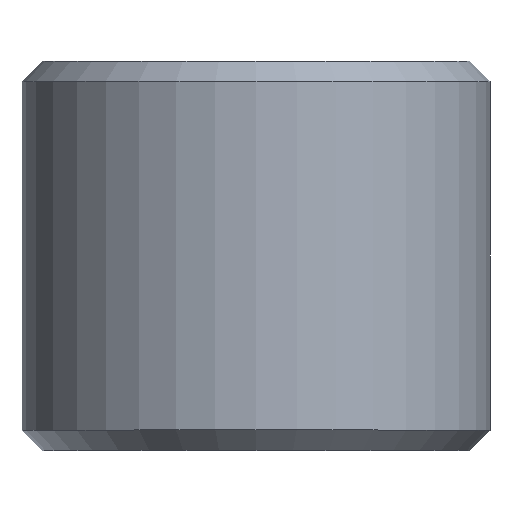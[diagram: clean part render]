
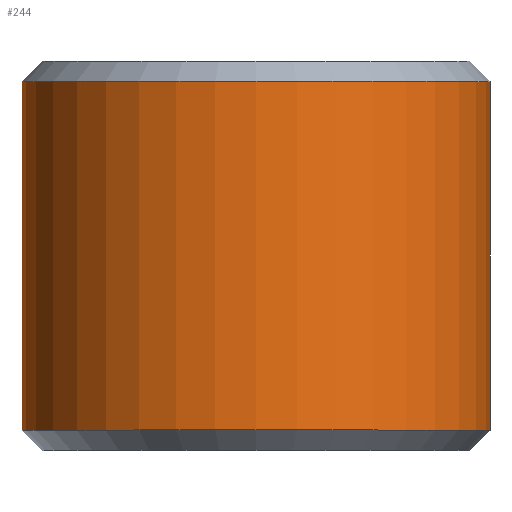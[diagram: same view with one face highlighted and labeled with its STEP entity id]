
A CAD part, top view. The second image highlights one B-rep face of the part: STEP entity #244.
In plain terms, the highlighted cylindrical face has radius 4.811 mm (diameter 9.621 mm), a full revolution.
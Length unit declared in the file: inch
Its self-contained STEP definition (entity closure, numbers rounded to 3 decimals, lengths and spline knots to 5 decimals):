
#16=CYLINDRICAL_SURFACE('',#274,0.18939);
#18=CIRCLE('',#272,0.18939);
#19=CIRCLE('',#273,0.18939);
#20=CIRCLE('',#275,0.18939);
#21=CIRCLE('',#276,0.18939);
#34=FACE_OUTER_BOUND('',#47,.T.);
#47=EDGE_LOOP('',(#193,#194,#195,#196,#197,#198));
#67=LINE('',#425,#83);
#83=VECTOR('',#321,0.203);
#117=VERTEX_POINT('',#418);
#118=VERTEX_POINT('',#420);
#119=VERTEX_POINT('',#424);
#120=VERTEX_POINT('',#426);
#149=EDGE_CURVE('',#117,#118,#18,.F.);
#150=EDGE_CURVE('',#118,#117,#19,.F.);
#151=EDGE_CURVE('',#118,#119,#67,.T.);
#152=EDGE_CURVE('',#120,#119,#20,.F.);
#153=EDGE_CURVE('',#119,#120,#21,.F.);
#193=ORIENTED_EDGE('',*,*,#150,.F.);
#194=ORIENTED_EDGE('',*,*,#151,.T.);
#195=ORIENTED_EDGE('',*,*,#152,.F.);
#196=ORIENTED_EDGE('',*,*,#153,.F.);
#197=ORIENTED_EDGE('',*,*,#151,.F.);
#198=ORIENTED_EDGE('',*,*,#149,.F.);
#244=ADVANCED_FACE('',(#34),#16,.T.);
#272=AXIS2_PLACEMENT_3D('',#421,#315,#316);
#273=AXIS2_PLACEMENT_3D('',#422,#317,#318);
#274=AXIS2_PLACEMENT_3D('',#423,#319,#320);
#275=AXIS2_PLACEMENT_3D('',#427,#322,#323);
#276=AXIS2_PLACEMENT_3D('',#428,#324,#325);
#315=DIRECTION('center_axis',(0.,1.,0.));
#316=DIRECTION('ref_axis',(0.,0.,-1.));
#317=DIRECTION('center_axis',(0.,1.,0.));
#318=DIRECTION('ref_axis',(0.,0.,-1.));
#319=DIRECTION('center_axis',(0.,-1.,0.));
#320=DIRECTION('ref_axis',(0.,0.,-1.));
#321=DIRECTION('',(0.,1.,0.));
#322=DIRECTION('center_axis',(0.,-1.,0.));
#323=DIRECTION('ref_axis',(0.,0.,-1.));
#324=DIRECTION('center_axis',(0.,-1.,0.));
#325=DIRECTION('ref_axis',(0.,0.,-1.));
#418=CARTESIAN_POINT('',(0.,0.01639,-0.18939));
#420=CARTESIAN_POINT('',(0.,0.01639,0.18939));
#421=CARTESIAN_POINT('Origin',(0.,0.01639,0.));
#422=CARTESIAN_POINT('Origin',(0.,0.01639,0.));
#423=CARTESIAN_POINT('Origin',(0.,0.1575,0.));
#424=CARTESIAN_POINT('',(0.,0.29861,0.18939));
#425=CARTESIAN_POINT('',(0.,0.1575,0.18939));
#426=CARTESIAN_POINT('',(0.,0.29861,-0.18939));
#427=CARTESIAN_POINT('Origin',(0.,0.29861,0.));
#428=CARTESIAN_POINT('Origin',(0.,0.29861,0.));
